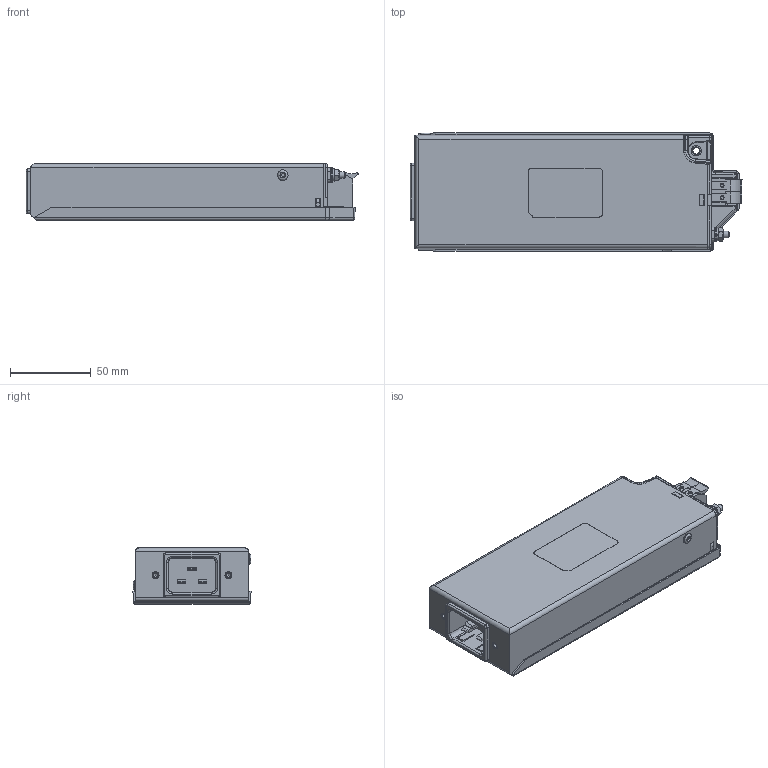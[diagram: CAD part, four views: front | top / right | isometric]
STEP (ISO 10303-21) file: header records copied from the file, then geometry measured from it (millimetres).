
FILE_DESCRIPTION(/* description */ (''),/* implementation_level */ '2;1');
FILE_NAME(/* name */ 'C:\Users\Christian.Ackermann\OneDrive - Schaffner EMV AG\Desktop\UMA_customerSTEP\FN266x-16_20-103.stp',/* time_stamp */ '2021-11-30T11:49:23+01:00',/* author */ ('Christian.Ackermann'),/* organization */ (''),/* preprocessor_version */ 'ST-DEVELOPER v18.1',/* originating_system */ 'Autodesk Inventor 2020',/* authorisation */ '');
FILE_SCHEMA (('AUTOMOTIVE_DESIGN { 1 0 10303 214 3 1 1 }'));
Length unit declared in the file: millimetre
Products named in the file (1): FN266x-16_20-103
Bounding box: 205.31 x 73 x 35.06 mm (x, y, z)
Volume: 436380.5 mm3; surface area: 87354.8 mm2
Topology: 3 solids, 3 shells, 1143 faces, 3037 edges, 1916 vertices
Faces by surface type: plane 688, cylinder 295, bspline 89, cone 40, torus 21, sphere 10
Full cylindrical faces by diameter (mm): 0.8 x13, 2 x4, 2.2 x1, 2.459 x2, 4 x2, 4.2 x1, 4.25 x2, 4.3 x1, 6.4 x1, 6.5 x2, 8.39 x2, 8.74 x3, 9 x1
Entity records: 38789 total; most frequent: CARTESIAN_POINT 8900, ORIENTED_EDGE 6046, DIRECTION 5851, EDGE_CURVE 3023, LINE 2091, VECTOR 2091, VERTEX_POINT 1916, AXIS2_PLACEMENT_3D 1880
